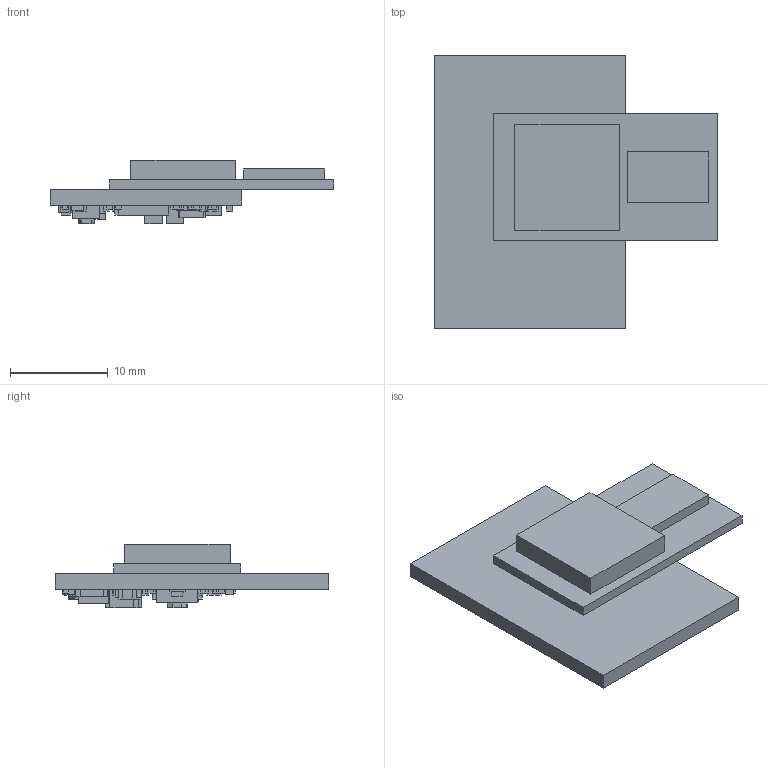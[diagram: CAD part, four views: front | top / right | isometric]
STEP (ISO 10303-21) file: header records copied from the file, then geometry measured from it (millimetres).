
FILE_DESCRIPTION(('Open CASCADE Model'),'2;1');
FILE_NAME('Open CASCADE Shape Model','2016-02-23T15:16:17',('Author'),( 'Open CASCADE'),'Open CASCADE STEP processor 6.8','Open CASCADE 6.8' ,'Unknown');
FILE_SCHEMA(('AUTOMOTIVE_DESIGN { 1 0 10303 214 1 1 1 1 }'));
Length unit declared in the file: millimetre
Products named in the file (110): PCB; Board; R19; 782451800; Extruded; 782451936; R18; R17; Q2; 782451664; Q1; 782451528; U4; 782454112; R1; 782453840; 782453976; C2; 782453568; 782453704; R14; 782453024; 782453160; C15; 782453296; 782452344; U5; 782454248; SW1; 782449488; 782451392; U1; 782454656; 782454792; 782454928; U6; 782452072; X1; ABM3; LED1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
Assembly tree (200 placements, depth 4):
  PCB
    Board
    R19
      782451800  x2
        Extruded
      782451936
        Extruded
    R18
      782451800  x2
        Extruded
      782451936
        Extruded
    R17
      782451800  x2
        Extruded
      782451936
        Extruded
    Q2
      782451664
        Extruded
    Q1
      782451528
        Extruded
    U4
      782454112
        Extruded
    R1
      782453840  x2
        Extruded
      782453976
        Extruded
    C2
      782453568
        Extruded
      782453704  x2
        Extruded
    R14
      782453024  x2
        Extruded
      782453160
        Extruded
    C15
      782453296  x2
        Extruded
      782452344
        Extruded
    U5
      782454248
        Extruded
    SW1
      782449488
        Extruded
      782451392
        Extruded
    U1
      782454656
        Extruded
      782454792
        Extruded
      782454928
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Bounding box: 29.05 x 28 x 6.51 mm (x, y, z)
Volume: 1596.7 mm3; surface area: 2967.5 mm2
Topology: 124 solids, 124 shells, 1009 faces, 2225 edges, 1478 vertices
Faces by surface type: plane 937, bspline 48, cylinder 24
Entity records: 39568 total; most frequent: CARTESIAN_POINT 13489, DIRECTION 4259, LINE 2911, VECTOR 2911, ORIENTED_EDGE 2266, PCURVE 2266, DEFINITIONAL_REPRESENTATION 2266, EDGE_CURVE 1133
